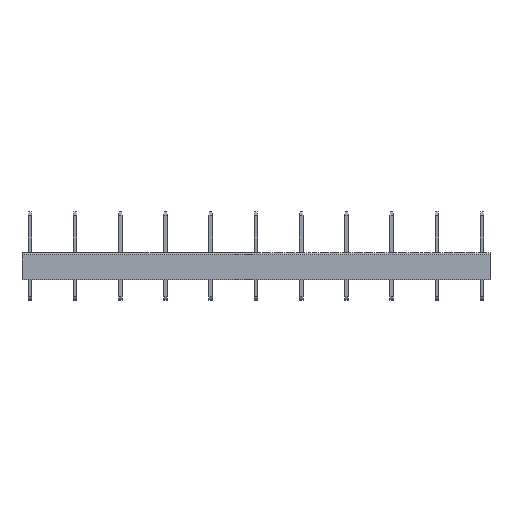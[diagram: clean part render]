
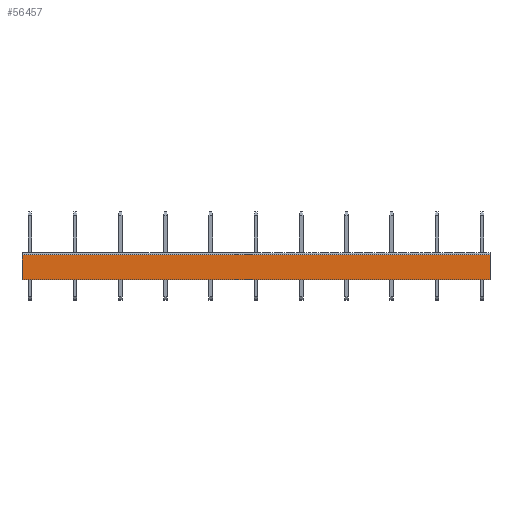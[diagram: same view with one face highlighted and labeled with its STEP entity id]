
A CAD part, top view. The second image highlights one B-rep face of the part: STEP entity #56457.
In plain terms, the highlighted planar face has unit normal (0, 0, 1).
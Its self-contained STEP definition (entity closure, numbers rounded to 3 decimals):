
#22830 = CARTESIAN_POINT ( 'NONE',  ( 6.5, 5.5, 0. ) ) ;
#22832 = DIRECTION ( 'NONE',  ( 0., 1., 0. ) ) ;
#22833 = VECTOR ( 'NONE', #22832, 1000. ) ;
#22834 = CARTESIAN_POINT ( 'NONE',  ( 6.5, 2.75, 0. ) ) ;
#22835 = LINE ( 'NONE', #22834, #22833 ) ;
#24668 = CARTESIAN_POINT ( 'NONE',  ( 6.5, 0., 0. ) ) ;
#31174 = CARTESIAN_POINT ( 'NONE',  ( 110., 0., 0. ) ) ;
#31223 = DIRECTION ( 'NONE',  ( -1., 0., 0. ) ) ;
#31224 = DIRECTION ( 'NONE',  ( 0., 0., -1. ) ) ;
#31225 = CARTESIAN_POINT ( 'NONE',  ( 110., 0., 0. ) ) ;
#31226 = AXIS2_PLACEMENT_3D ( 'NONE', #31225, #31224, #31223 ) ;
#31227 = PLANE ( 'NONE',  #31226 ) ;
#31228 = FACE_OUTER_BOUND ( 'NONE', #56459, .T. ) ;
#31229 = DIRECTION ( 'NONE',  ( -1., 0., 0. ) ) ;
#31230 = VECTOR ( 'NONE', #31229, 1000. ) ;
#31231 = CARTESIAN_POINT ( 'NONE',  ( 110., 0., 0. ) ) ;
#31237 = LINE ( 'NONE', #31231, #31230 ) ;
#31238 = DIRECTION ( 'NONE',  ( 0., 1., 0. ) ) ;
#31239 = VECTOR ( 'NONE', #31238, 1000. ) ;
#31240 = CARTESIAN_POINT ( 'NONE',  ( 110., 3., 0. ) ) ;
#31241 = LINE ( 'NONE', #31240, #31239 ) ;
#31288 = DIRECTION ( 'NONE',  ( -1., 0., 0. ) ) ;
#31289 = VECTOR ( 'NONE', #31288, 1000. ) ;
#31290 = CARTESIAN_POINT ( 'NONE',  ( 58.25, 5.5, 0. ) ) ;
#31291 = LINE ( 'NONE', #31290, #31289 ) ;
#31302 = CARTESIAN_POINT ( 'NONE',  ( 110., 5.5, 0. ) ) ;
#51067 = EDGE_CURVE ( 'NONE', #52340, #51069, #22835, .T. ) ;
#51069 = VERTEX_POINT ( 'NONE', #22830 ) ;
#52340 = VERTEX_POINT ( 'NONE', #24668 ) ;
#56380 = ORIENTED_EDGE ( 'NONE', *, *, #56455, .F. ) ;
#56451 = VERTEX_POINT ( 'NONE', #31174 ) ;
#56455 = EDGE_CURVE ( 'NONE', #56451, #52340, #31237, .T. ) ;
#56457 = ADVANCED_FACE ( 'NONE', ( #31228 ), #31227, .F. ) ;
#56459 = EDGE_LOOP ( 'NONE', ( #56461, #56380, #56491, #56497 ) ) ;
#56461 = ORIENTED_EDGE ( 'NONE', *, *, #51067, .F. ) ;
#56491 = ORIENTED_EDGE ( 'NONE', *, *, #56492, .T. ) ;
#56492 = EDGE_CURVE ( 'NONE', #56451, #56494, #31241, .T. ) ;
#56494 = VERTEX_POINT ( 'NONE', #31302 ) ;
#56497 = ORIENTED_EDGE ( 'NONE', *, *, #56499, .T. ) ;
#56499 = EDGE_CURVE ( 'NONE', #56494, #51069, #31291, .T. ) ;
